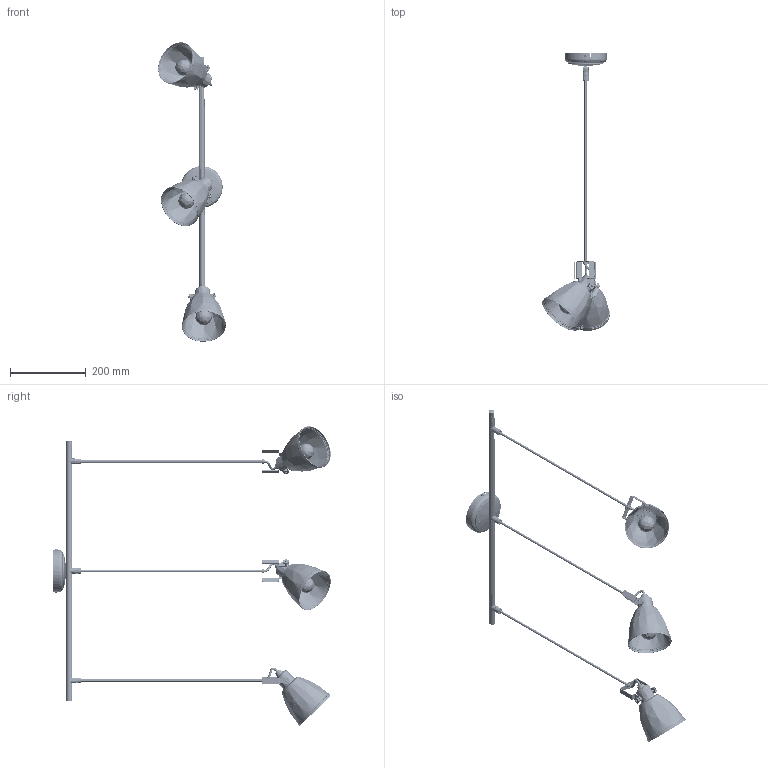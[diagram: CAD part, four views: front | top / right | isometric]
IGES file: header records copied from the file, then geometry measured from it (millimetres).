
Start section: SolidWorks IGES file using analytic representation for surfaces
Global section: file name: E:\3D lampy\Axe\Axe_5445.IGS; native system: SolidWorks 2016; preprocessor: SolidWorks 2016; author: Asia; date: 171006.114541; units: millimetre
Bounding box: 178.54 x 732.97 x 790.92 mm (x, y, z)
Surface area: 432088.9 mm2 (no closed solid volume)
Topology: 0 solids, 0 shells, 5833 faces, 44524 edges, 44518 vertices
Faces by surface type: bspline 3076, revolution 2757
